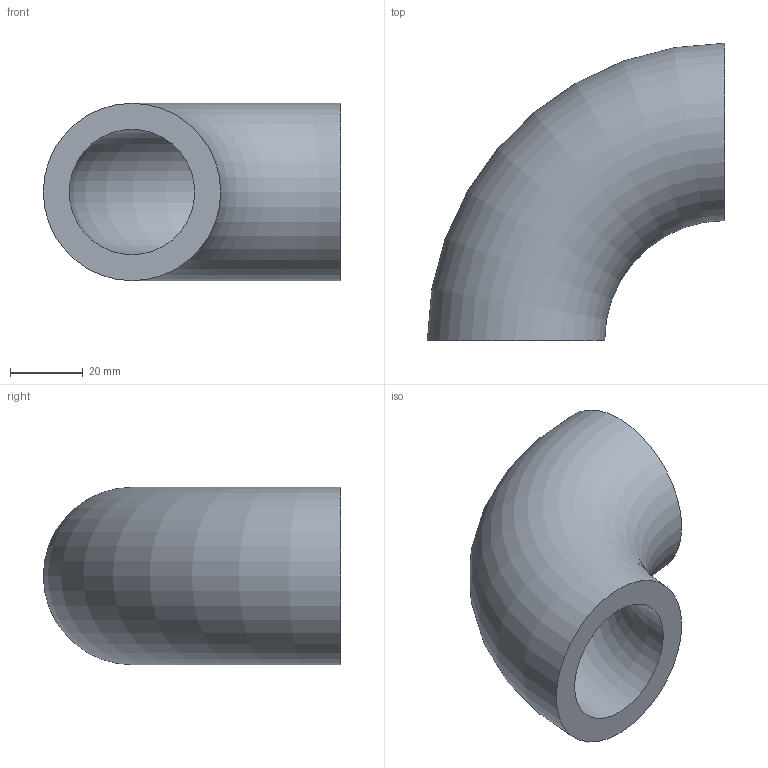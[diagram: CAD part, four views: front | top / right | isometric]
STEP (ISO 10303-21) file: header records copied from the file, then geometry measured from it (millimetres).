
FILE_DESCRIPTION(/* description */ (''),/* implementation_level */ '2;1');
FILE_NAME(/* name */ 'C:\Users\D\Documents\Inventor\HP\JIS\配管\エルボ ロング 90°\Sch160\Elbow-long-90-40A-Sch160.stp',/* time_stamp */ '2022-06-09T18:42:22+09:00',/* author */ ('D'),/* organization */ (''),/* preprocessor_version */ 'ST-DEVELOPER v18',/* originating_system */ 'Autodesk Inventor 2020',/* authorisation */ '');
FILE_SCHEMA (('AUTOMOTIVE_DESIGN { 1 0 10303 214 3 1 1 }'));
Length unit declared in the file: millimetre
Products named in the file (1): Elbow-long-90-15A-SGP
Bounding box: 81.5 x 81.5 x 48.6 mm (x, y, z)
Volume: 83171.1 mm3; surface area: 25279.8 mm2
Topology: 1 solids, 1 shells, 4 faces, 10 edges, 8 vertices
Faces by surface type: torus 2, plane 2
Entity records: 181 total; most frequent: DIRECTION 30, CARTESIAN_POINT 23, ORIENTED_EDGE 20, AXIS2_PLACEMENT_3D 15, CIRCLE 10, EDGE_CURVE 10, VERTEX_POINT 8, EDGE_LOOP 6
